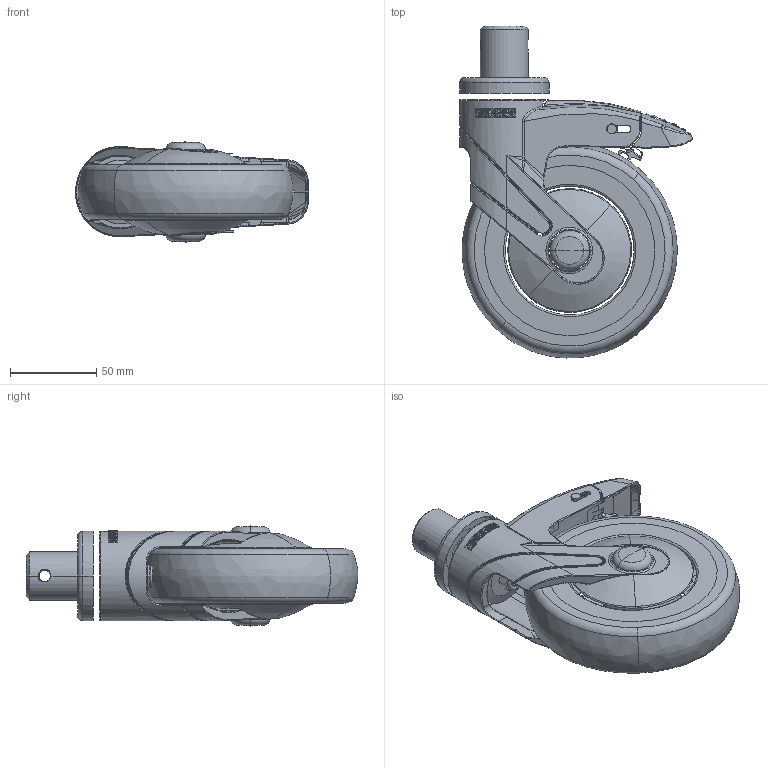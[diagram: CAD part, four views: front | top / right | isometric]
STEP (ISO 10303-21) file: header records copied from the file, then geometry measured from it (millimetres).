
FILE_DESCRIPTION((''),'2;1');
FILE_NAME('PRT0022','2025-08-13T09:20:06',('Administrator'),(''),'CREO PARAMETRIC BY PTC INC, 2022124','CREO PARAMETRIC BY PTC INC, 2022124','');
FILE_SCHEMA(('AUTOMOTIVE_DESIGN { 1 0 10303 214 1 1 1 1 }'));
Length unit declared in the file: millimetre
Products named in the file (1): PRT0022
Bounding box: 135.39 x 192.97 x 58.19 mm (x, y, z)
Surface area: 67487.2 mm2 (no closed solid volume)
Topology: 0 solids, 32 shells, 326 faces, 1432 edges, 1092 vertices
Faces by surface type: bspline 142, cylinder 79, plane 47, torus 41, sphere 8, cone 7, extrusion 2
Entity records: 31689 total; most frequent: CARTESIAN_POINT 19652, ORIENTED_EDGE 1940, DIRECTION 1521, EDGE_CURVE 1424, VERTEX_POINT 1092, B_SPLINE_CURVE_WITH_KNOTS 713, AXIS2_PLACEMENT_3D 611, CIRCLE 419
